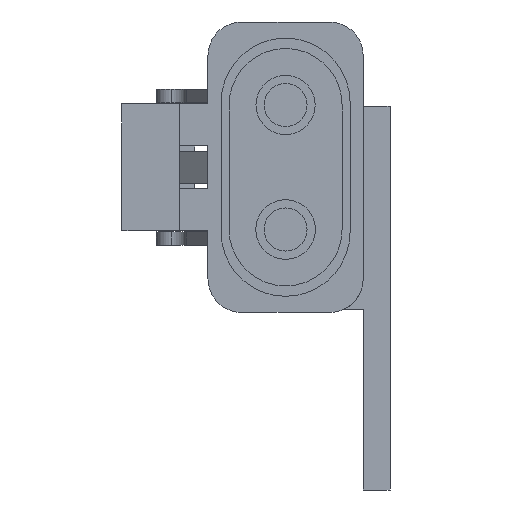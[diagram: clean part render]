
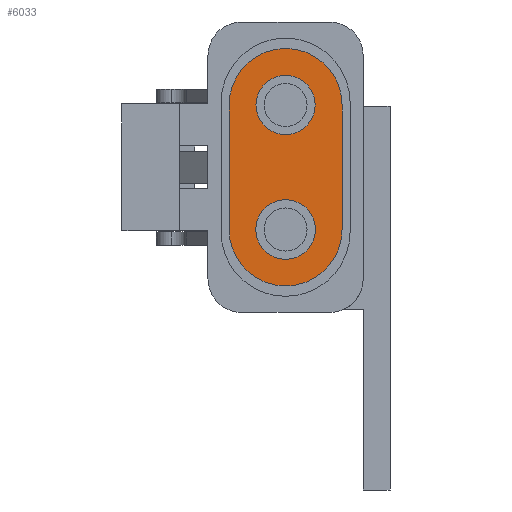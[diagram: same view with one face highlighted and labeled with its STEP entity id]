
A CAD part, front view. The second image highlights one B-rep face of the part: STEP entity #6033.
In plain terms, the highlighted planar face has unit normal (0, -1, 0).
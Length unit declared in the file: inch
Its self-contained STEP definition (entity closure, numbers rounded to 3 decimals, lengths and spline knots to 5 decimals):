
#332=FACE_BOUND('',#1113,.T.);
#333=FACE_BOUND('',#1114,.T.);
#447=CIRCLE('',#6535,0.11);
#449=CIRCLE('',#6539,0.111);
#451=CIRCLE('',#6543,0.21);
#453=CIRCLE('',#6547,0.21);
#764=FACE_OUTER_BOUND('',#1112,.T.);
#1112=EDGE_LOOP('',(#4476,#4477,#4478,#4479));
#1113=EDGE_LOOP('',(#4480));
#1114=EDGE_LOOP('',(#4481));
#1541=LINE('',#8800,#2120);
#1545=LINE('',#8810,#2124);
#2120=VECTOR('',#7365,0.3937);
#2124=VECTOR('',#7377,0.3937);
#2692=VERTEX_POINT('',#8776);
#2694=VERTEX_POINT('',#8783);
#2697=VERTEX_POINT('',#8791);
#2698=VERTEX_POINT('',#8793);
#2700=VERTEX_POINT('',#8799);
#2702=VERTEX_POINT('',#8805);
#3356=EDGE_CURVE('',#2692,#2692,#447,.T.);
#3359=EDGE_CURVE('',#2694,#2694,#449,.T.);
#3362=EDGE_CURVE('',#2698,#2697,#451,.T.);
#3365=EDGE_CURVE('',#2700,#2698,#1541,.T.);
#3368=EDGE_CURVE('',#2702,#2700,#453,.T.);
#3371=EDGE_CURVE('',#2697,#2702,#1545,.T.);
#4476=ORIENTED_EDGE('',*,*,#3371,.T.);
#4477=ORIENTED_EDGE('',*,*,#3368,.T.);
#4478=ORIENTED_EDGE('',*,*,#3365,.T.);
#4479=ORIENTED_EDGE('',*,*,#3362,.T.);
#4480=ORIENTED_EDGE('',*,*,#3356,.T.);
#4481=ORIENTED_EDGE('',*,*,#3359,.T.);
#5799=PLANE('',#6549);
#6033=ADVANCED_FACE('',(#764,#332,#333),#5799,.F.);
#6535=AXIS2_PLACEMENT_3D('',#8778,#7341,#7342);
#6539=AXIS2_PLACEMENT_3D('',#8785,#7350,#7351);
#6543=AXIS2_PLACEMENT_3D('',#8794,#7359,#7360);
#6547=AXIS2_PLACEMENT_3D('',#8806,#7371,#7372);
#6549=AXIS2_PLACEMENT_3D('',#8811,#7378,#7379);
#7341=DIRECTION('center_axis',(0.,1.,0.));
#7342=DIRECTION('ref_axis',(-1.,0.,0.));
#7350=DIRECTION('center_axis',(0.,1.,0.));
#7351=DIRECTION('ref_axis',(-1.,0.,0.));
#7359=DIRECTION('center_axis',(0.,-1.,0.));
#7360=DIRECTION('ref_axis',(1.,0.,0.));
#7365=DIRECTION('',(0.,0.,1.));
#7371=DIRECTION('center_axis',(0.,-1.,0.));
#7372=DIRECTION('ref_axis',(-1.,0.,0.));
#7377=DIRECTION('',(0.,0.,-1.));
#7378=DIRECTION('center_axis',(0.,1.,0.));
#7379=DIRECTION('ref_axis',(0.,0.,1.));
#8776=CARTESIAN_POINT('',(0.11,-1.23,0.2315));
#8778=CARTESIAN_POINT('Origin',(0.,-1.23,0.2315));
#8783=CARTESIAN_POINT('',(0.111,-1.23,-0.2315));
#8785=CARTESIAN_POINT('Origin',(0.,-1.23,-0.2315));
#8791=CARTESIAN_POINT('',(-0.21,-1.23,0.2315));
#8793=CARTESIAN_POINT('',(0.21,-1.23,0.2315));
#8794=CARTESIAN_POINT('Origin',(0.,-1.23,0.2315));
#8799=CARTESIAN_POINT('',(0.21,-1.23,-0.2315));
#8800=CARTESIAN_POINT('',(0.21,-1.23,-0.2315));
#8805=CARTESIAN_POINT('',(-0.21,-1.23,-0.2315));
#8806=CARTESIAN_POINT('Origin',(0.,-1.23,-0.2315));
#8810=CARTESIAN_POINT('',(-0.21,-1.23,0.2315));
#8811=CARTESIAN_POINT('Origin',(0.,-1.23,0.));
